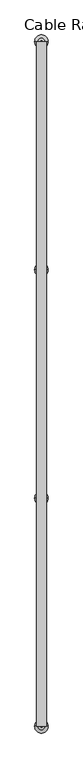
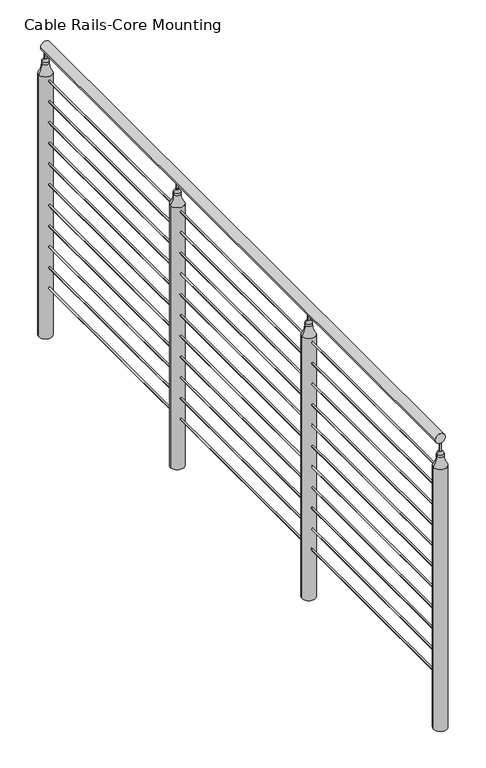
"""IFC4 building model written with IfcOpenShell, lengths in millimetres: railing geometry, Cable Rails-Core Mounting."""

from ifc_helpers import new_model, si_unit, point, frame, frame_2d, origin, place, context, project, spatial, circle_curve, ellipse_curve, trimmed, segment, composite_curve, outline, extrude, source, transform, mapped, element, save
from ifc_brep_helpers import plane_surface, cylinder_surface, revolved_surface, advanced_brep


def cable_rails_core_mounting_adef0a97(model_context):
    return source(origin(), model_context, "Body", "SolidModel", [
        extrude(outline(composite_curve([segment(trimmed(circle_curve(frame_2d((4140.2, -11646.7970616)), 19.05), [point((4140.2, -11665.8470616))], [point((4140.2, -11627.7470616))], False, "CARTESIAN"), True, "CONTINUOUS"), segment(trimmed(circle_curve(frame_2d((4140.2, -11646.7970616)), 19.05), [point((4140.2, -11627.7470616))], [point((4140.2, -11665.8470616))], False, "CARTESIAN"), True, "CONTINUOUS")], self_intersect=False)), frame((0.0, -3922.2150713, 0.0), z_axis=(0.0, 1.0, 0.0), x_axis=(0.0, 0.0, 1.0)), (0.0, 0.0, 1.0), 2578.1),
        extrude(outline(composite_curve([segment(trimmed(circle_curve(frame_2d((4016.375, -11646.7970616)), 3.175), [point((4016.375, -11649.9720616))], [point((4016.375, -11643.6220616))], False, "CARTESIAN"), True, "CONTINUOUS"), segment(trimmed(circle_curve(frame_2d((4016.375, -11646.7970616)), 3.175), [point((4016.375, -11643.6220616))], [point((4016.375, -11649.9720616))], False, "CARTESIAN"), True, "CONTINUOUS")], self_intersect=False)), frame((0.0, -3922.2150713, 0.0), z_axis=(0.0, 1.0, 0.0), x_axis=(0.0, 0.0, 1.0)), (0.0, 0.0, 1.0), 2578.1),
        extrude(outline(composite_curve([segment(trimmed(circle_curve(frame_2d((3933.825, -11646.7970616)), 3.175), [point((3933.825, -11649.9720616))], [point((3933.825, -11643.6220616))], False, "CARTESIAN"), True, "CONTINUOUS"), segment(trimmed(circle_curve(frame_2d((3933.825, -11646.7970616)), 3.175), [point((3933.825, -11643.6220616))], [point((3933.825, -11649.9720616))], False, "CARTESIAN"), True, "CONTINUOUS")], self_intersect=False)), frame((0.0, -3922.2150713, 0.0), z_axis=(0.0, 1.0, 0.0), x_axis=(0.0, 0.0, 1.0)), (0.0, 0.0, 1.0), 2578.1),
        extrude(outline(composite_curve([segment(trimmed(circle_curve(frame_2d((3851.275, -11646.7970616)), 3.175), [point((3851.275, -11649.9720616))], [point((3851.275, -11643.6220616))], False, "CARTESIAN"), True, "CONTINUOUS"), segment(trimmed(circle_curve(frame_2d((3851.275, -11646.7970616)), 3.175), [point((3851.275, -11643.6220616))], [point((3851.275, -11649.9720616))], False, "CARTESIAN"), True, "CONTINUOUS")], self_intersect=False)), frame((0.0, -3922.2150713, 0.0), z_axis=(0.0, 1.0, 0.0), x_axis=(0.0, 0.0, 1.0)), (0.0, 0.0, 1.0), 2578.1),
        extrude(outline(composite_curve([segment(trimmed(circle_curve(frame_2d((3768.725, -11646.7970616)), 3.175), [point((3768.725, -11649.9720616))], [point((3768.725, -11643.6220616))], False, "CARTESIAN"), True, "CONTINUOUS"), segment(trimmed(circle_curve(frame_2d((3768.725, -11646.7970616)), 3.175), [point((3768.725, -11643.6220616))], [point((3768.725, -11649.9720616))], False, "CARTESIAN"), True, "CONTINUOUS")], self_intersect=False)), frame((0.0, -3922.2150713, 0.0), z_axis=(0.0, 1.0, 0.0), x_axis=(0.0, 0.0, 1.0)), (0.0, 0.0, 1.0), 2578.1),
        extrude(outline(composite_curve([segment(trimmed(circle_curve(frame_2d((3686.175, -11646.7970616)), 3.175), [point((3686.175, -11649.9720616))], [point((3686.175, -11643.6220616))], False, "CARTESIAN"), True, "CONTINUOUS"), segment(trimmed(circle_curve(frame_2d((3686.175, -11646.7970616)), 3.175), [point((3686.175, -11643.6220616))], [point((3686.175, -11649.9720616))], False, "CARTESIAN"), True, "CONTINUOUS")], self_intersect=False)), frame((0.0, -3922.2150713, 0.0), z_axis=(0.0, 1.0, 0.0), x_axis=(0.0, 0.0, 1.0)), (0.0, 0.0, 1.0), 2578.1),
        extrude(outline(composite_curve([segment(trimmed(circle_curve(frame_2d((3603.625, -11646.7970616)), 3.175), [point((3603.625, -11649.9720616))], [point((3603.625, -11643.6220616))], False, "CARTESIAN"), True, "CONTINUOUS"), segment(trimmed(circle_curve(frame_2d((3603.625, -11646.7970616)), 3.175), [point((3603.625, -11643.6220616))], [point((3603.625, -11649.9720616))], False, "CARTESIAN"), True, "CONTINUOUS")], self_intersect=False)), frame((0.0, -3922.2150713, 0.0), z_axis=(0.0, 1.0, 0.0), x_axis=(0.0, 0.0, 1.0)), (0.0, 0.0, 1.0), 2578.1),
        extrude(outline(composite_curve([segment(trimmed(circle_curve(frame_2d((3521.075, -11646.7970616)), 3.175), [point((3521.075, -11649.9720616))], [point((3521.075, -11643.6220616))], False, "CARTESIAN"), True, "CONTINUOUS"), segment(trimmed(circle_curve(frame_2d((3521.075, -11646.7970616)), 3.175), [point((3521.075, -11643.6220616))], [point((3521.075, -11649.9720616))], False, "CARTESIAN"), True, "CONTINUOUS")], self_intersect=False)), frame((0.0, -3922.2150713, 0.0), z_axis=(0.0, 1.0, 0.0), x_axis=(0.0, 0.0, 1.0)), (0.0, 0.0, 1.0), 2578.1),
        extrude(outline(composite_curve([segment(trimmed(circle_curve(frame_2d((3438.525, -11646.7970616)), 3.175), [point((3438.525, -11649.9720616))], [point((3438.525, -11643.6220616))], False, "CARTESIAN"), True, "CONTINUOUS"), segment(trimmed(circle_curve(frame_2d((3438.525, -11646.7970616)), 3.175), [point((3438.525, -11643.6220616))], [point((3438.525, -11649.9720616))], False, "CARTESIAN"), True, "CONTINUOUS")], self_intersect=False)), frame((0.0, -3922.2150713, 0.0), z_axis=(0.0, 1.0, 0.0), x_axis=(0.0, 0.0, 1.0)), (0.0, 0.0, 1.0), 2578.1),
        extrude(outline(composite_curve([segment(trimmed(circle_curve(frame_2d((3355.975, -11646.7970616)), 3.175), [point((3355.975, -11649.9720616))], [point((3355.975, -11643.6220616))], False, "CARTESIAN"), True, "CONTINUOUS"), segment(trimmed(circle_curve(frame_2d((3355.975, -11646.7970616)), 3.175), [point((3355.975, -11643.6220616))], [point((3355.975, -11649.9720616))], False, "CARTESIAN"), True, "CONTINUOUS")], self_intersect=False)), frame((0.0, -3922.2150713, 0.0), z_axis=(0.0, 1.0, 0.0), x_axis=(0.0, 0.0, 1.0)), (0.0, 0.0, 1.0), 2578.1),
        extrude(outline(composite_curve([segment(trimmed(circle_curve(frame_2d((3273.425, -11646.7970616)), 3.175), [point((3273.425, -11649.9720616))], [point((3273.425, -11643.6220616))], False, "CARTESIAN"), True, "CONTINUOUS"), segment(trimmed(circle_curve(frame_2d((3273.425, -11646.7970616)), 3.175), [point((3273.425, -11643.6220616))], [point((3273.425, -11649.9720616))], False, "CARTESIAN"), True, "CONTINUOUS")], self_intersect=False)), frame((0.0, -3922.2150713, 0.0), z_axis=(0.0, 1.0, 0.0), x_axis=(0.0, 0.0, 1.0)), (0.0, 0.0, 1.0), 2578.1),
        extrude(outline(composite_curve([segment(trimmed(circle_curve(frame_2d((3190.875, -11646.7970616)), 3.175), [point((3190.875, -11649.9720616))], [point((3190.875, -11643.6220616))], False, "CARTESIAN"), True, "CONTINUOUS"), segment(trimmed(circle_curve(frame_2d((3190.875, -11646.7970616)), 3.175), [point((3190.875, -11643.6220616))], [point((3190.875, -11649.9720616))], False, "CARTESIAN"), True, "CONTINUOUS")], self_intersect=False)), frame((0.0, -3922.2150713, 0.0), z_axis=(0.0, 1.0, 0.0), x_axis=(0.0, 0.0, 1.0)), (0.0, 0.0, 1.0), 2578.1),
        advanced_brep(
        [(-11621.3976638, -2203.0848629, 4033.5847854), (-11672.1964594, -2203.0848629, 4033.5847854), (-11672.1964594, -2203.0848629, 2990.85), (-11621.3976638, -2203.0848629, 2990.85), (-11634.0590931, -2203.0848629, 4071.7986202), (-11659.5350302, -2203.0848629, 4071.7986202), (-11634.0590931, -2203.0848629, 4080.7816777), (-11659.5350302, -2203.0848629, 4080.7816777), (-11643.1975594, -2203.0848629, 4089.7402749), (-11650.3965638, -2203.0848629, 4089.7402749), (-11643.1975594, -2203.0848629, 4121.15), (-11650.3965638, -2203.0848629, 4121.15), (-11646.7970616, -2203.0848629, 4121.15), (-11646.7970616, -2203.0848629, 2990.85)],
        [
            (0, 1, circle_curve(frame((-11646.7970616, -2203.0848629, 4033.5847854), z_axis=(0.0, 0.0, -1.0), x_axis=(-1.0, 0.0, 0.0)), 25.3993978)),
            (1, 2),
            (2, 3, circle_curve(frame((-11646.7970616, -2203.0848629, 2990.85), z_axis=(0.0, 0.0, 1.0), x_axis=(-1.0, 0.0, 0.0)), 25.3993978)),
            (3, 0),
            (1, 0, circle_curve(frame((-11646.7970616, -2203.0848629, 4033.5847854), z_axis=(0.0, 0.0, -1.0), x_axis=(-1.0, 0.0, 0.0)), 25.3993978)),
            (3, 2, circle_curve(frame((-11646.7970616, -2203.0848629, 2990.85), z_axis=(0.0, 0.0, 1.0), x_axis=(-1.0, 0.0, 0.0)), 25.3993978)),
            (4, 5, circle_curve(frame((-11646.7970616, -2203.0848629, 4071.7986202), z_axis=(0.0, 0.0, -1.0), x_axis=(-1.0, 0.0, 0.0)), 12.7379685)),
            (5, 1, circle_curve(frame((-11723.5328985, -2203.0848629, 4071.7986202), z_axis=(0.0, 1.0, 0.0), x_axis=(-1.0, 0.0, 0.0)), 63.9978683)),
            (0, 4, circle_curve(frame((-11570.0612248, -2203.0848629, 4071.7986202), z_axis=(0.0, 1.0, 0.0), x_axis=(1.0, 0.0, 0.0)), 63.9978683)),
            (5, 4, circle_curve(frame((-11646.7970616, -2203.0848629, 4071.7986202), z_axis=(0.0, 0.0, -1.0), x_axis=(-1.0, 0.0, 0.0)), 12.7379685)),
            (6, 7, circle_curve(frame((-11646.7970616, -2203.0848629, 4080.7816777), z_axis=(0.0, 0.0, -1.0), x_axis=(-1.0, 0.0, 0.0)), 12.7379685)),
            (7, 5),
            (4, 6),
            (7, 6, circle_curve(frame((-11646.7970616, -2203.0848629, 4080.7816777), z_axis=(0.0, 0.0, -1.0), x_axis=(-1.0, 0.0, 0.0)), 12.7379685)),
            (8, 9, circle_curve(frame((-11646.7970616, -2203.0848629, 4089.7402749), z_axis=(0.0, 0.0, -1.0), x_axis=(-1.0, 0.0, 0.0)), 3.5995022)),
            (9, 7, circle_curve(frame((-11646.7569358, -2203.0848629, 4076.8872989), z_axis=(0.0, -1.0, 0.0), x_axis=(-1.0, 0.0, 0.0)), 13.3583638)),
            (6, 8, circle_curve(frame((-11646.8371875, -2203.0848629, 4076.8872989), z_axis=(0.0, -1.0, 0.0), x_axis=(1.0, 0.0, 0.0)), 13.3583638)),
            (9, 8, circle_curve(frame((-11646.7970616, -2203.0848629, 4089.7402749), z_axis=(0.0, 0.0, -1.0), x_axis=(-1.0, 0.0, 0.0)), 3.5995022)),
            (10, 11, circle_curve(frame((-11646.7970616, -2203.0848629, 4121.15), z_axis=(0.0, 0.0, -1.0), x_axis=(-1.0, 0.0, 0.0)), 3.5995022)),
            (11, 9),
            (8, 10),
            (11, 10, circle_curve(frame((-11646.7970616, -2203.0848629, 4121.15), z_axis=(0.0, 0.0, -1.0), x_axis=(-1.0, 0.0, 0.0)), 3.5995022)),
            (12, 11),
            (10, 12),
            (2, 13),
            (13, 3),
        ],
        [
            cylinder_surface(frame((-11646.7970616, -2203.0848629, 4197.35), z_axis=(0.0, 0.0, 1.0), x_axis=(-1.0, 0.0, 0.0)), 25.3993978),
            revolved_surface(trimmed(ellipse_curve(frame((-11723.5328985, -2203.0848629, 4071.7986202), z_axis=(0.0, -1.0, 0.0), x_axis=(-1.0, 0.0, 0.0)), 63.9978683, 63.9978683), [point((-11672.1964594, -2203.0848629, 4033.5847854))], [point((-11659.5350302, -2203.0848629, 4071.7986202))], True, "CARTESIAN"), (-11646.7970616, -2203.0848629, 4197.35), (0.0, 0.0, 1.0)),
            cylinder_surface(frame((-11646.7970616, -2203.0848629, 4197.35), z_axis=(0.0, 0.0, 1.0), x_axis=(-1.0, 0.0, 0.0)), 12.7379685),
            revolved_surface(trimmed(ellipse_curve(frame((-11646.7569358, -2203.0848629, 4076.8872989), z_axis=(0.0, 1.0, 0.0), x_axis=(-1.0, 0.0, 0.0)), 13.3583638, 13.3583638), [point((-11659.5350302, -2203.0848629, 4080.7816777))], [point((-11650.3965638, -2203.0848629, 4089.7402749))], True, "CARTESIAN"), (-11646.7970616, -2203.0848629, 4197.35), (0.0, 0.0, 1.0)),
            cylinder_surface(frame((-11646.7970616, -2203.0848629, 4197.35), z_axis=(0.0, 0.0, 1.0), x_axis=(-1.0, 0.0, 0.0)), 3.5995022),
            plane_surface(frame((-11646.7970616, -2203.0848629, 4121.15), z_axis=(0.0, 0.0, 1.0), x_axis=(-1.0, 0.0, 0.0))),
            plane_surface(frame((-11646.7970616, -2203.0848629, 2990.85), z_axis=(0.0, 0.0, -1.0), x_axis=(-1.0, 0.0, 0.0))),
        ],
        [
            (0, [[1, 2, 3, 4]]),
            (0, [[5, -4, 6, -2]]),
            (1, [[7, 8, -1, 9]]),
            (1, [[10, -9, -5, -8]]),
            (2, [[11, 12, -7, 13]]),
            (2, [[14, -13, -10, -12]]),
            (3, [[15, 16, -11, 17]]),
            (3, [[18, -17, -14, -16]]),
            (4, [[19, 20, -15, 21]]),
            (4, [[22, -21, -18, -20]]),
            (5, [[23, -19, 24]]),
            (5, [[-24, -22, -23]]),
            (6, [[-3, 25, 26]]),
            (6, [[-6, -26, -25]]),
        ],
    ),
        advanced_brep(
        [(-11621.3976638, -3062.4515296, 4033.5847854), (-11672.1964594, -3062.4515296, 4033.5847854), (-11672.1964594, -3062.4515296, 2990.85), (-11621.3976638, -3062.4515296, 2990.85), (-11634.0590931, -3062.4515296, 4071.7986202), (-11659.5350302, -3062.4515296, 4071.7986202), (-11634.0590931, -3062.4515296, 4080.7816777), (-11659.5350302, -3062.4515296, 4080.7816777), (-11643.1975594, -3062.4515296, 4089.7402749), (-11650.3965638, -3062.4515296, 4089.7402749), (-11643.1975594, -3062.4515296, 4121.15), (-11650.3965638, -3062.4515296, 4121.15), (-11646.7970616, -3062.4515296, 4121.15), (-11646.7970616, -3062.4515296, 2990.85)],
        [
            (0, 1, circle_curve(frame((-11646.7970616, -3062.4515296, 4033.5847854), z_axis=(0.0, 0.0, -1.0), x_axis=(-1.0, 0.0, 0.0)), 25.3993978)),
            (1, 2),
            (2, 3, circle_curve(frame((-11646.7970616, -3062.4515296, 2990.85), z_axis=(0.0, 0.0, 1.0), x_axis=(-1.0, 0.0, 0.0)), 25.3993978)),
            (3, 0),
            (1, 0, circle_curve(frame((-11646.7970616, -3062.4515296, 4033.5847854), z_axis=(0.0, 0.0, -1.0), x_axis=(-1.0, 0.0, 0.0)), 25.3993978)),
            (3, 2, circle_curve(frame((-11646.7970616, -3062.4515296, 2990.85), z_axis=(0.0, 0.0, 1.0), x_axis=(-1.0, 0.0, 0.0)), 25.3993978)),
            (4, 5, circle_curve(frame((-11646.7970616, -3062.4515296, 4071.7986202), z_axis=(0.0, 0.0, -1.0), x_axis=(-1.0, 0.0, 0.0)), 12.7379685)),
            (5, 1, circle_curve(frame((-11723.5328985, -3062.4515296, 4071.7986202), z_axis=(0.0, 1.0, 0.0), x_axis=(-1.0, 0.0, 0.0)), 63.9978683)),
            (0, 4, circle_curve(frame((-11570.0612248, -3062.4515296, 4071.7986202), z_axis=(0.0, 1.0, 0.0), x_axis=(1.0, 0.0, 0.0)), 63.9978683)),
            (5, 4, circle_curve(frame((-11646.7970616, -3062.4515296, 4071.7986202), z_axis=(0.0, 0.0, -1.0), x_axis=(-1.0, 0.0, 0.0)), 12.7379685)),
            (6, 7, circle_curve(frame((-11646.7970616, -3062.4515296, 4080.7816777), z_axis=(0.0, 0.0, -1.0), x_axis=(-1.0, 0.0, 0.0)), 12.7379685)),
            (7, 5),
            (4, 6),
            (7, 6, circle_curve(frame((-11646.7970616, -3062.4515296, 4080.7816777), z_axis=(0.0, 0.0, -1.0), x_axis=(-1.0, 0.0, 0.0)), 12.7379685)),
            (8, 9, circle_curve(frame((-11646.7970616, -3062.4515296, 4089.7402749), z_axis=(0.0, 0.0, -1.0), x_axis=(-1.0, 0.0, 0.0)), 3.5995022)),
            (9, 7, circle_curve(frame((-11646.7569358, -3062.4515296, 4076.8872989), z_axis=(0.0, -1.0, 0.0), x_axis=(-1.0, 0.0, 0.0)), 13.3583638)),
            (6, 8, circle_curve(frame((-11646.8371875, -3062.4515296, 4076.8872989), z_axis=(0.0, -1.0, 0.0), x_axis=(1.0, 0.0, 0.0)), 13.3583638)),
            (9, 8, circle_curve(frame((-11646.7970616, -3062.4515296, 4089.7402749), z_axis=(0.0, 0.0, -1.0), x_axis=(-1.0, 0.0, 0.0)), 3.5995022)),
            (10, 11, circle_curve(frame((-11646.7970616, -3062.4515296, 4121.15), z_axis=(0.0, 0.0, -1.0), x_axis=(-1.0, 0.0, 0.0)), 3.5995022)),
            (11, 9),
            (8, 10),
            (11, 10, circle_curve(frame((-11646.7970616, -3062.4515296, 4121.15), z_axis=(0.0, 0.0, -1.0), x_axis=(-1.0, 0.0, 0.0)), 3.5995022)),
            (12, 11),
            (10, 12),
            (2, 13),
            (13, 3),
        ],
        [
            cylinder_surface(frame((-11646.7970616, -3062.4515296, 4197.35), z_axis=(0.0, 0.0, 1.0), x_axis=(-1.0, 0.0, 0.0)), 25.3993978),
            revolved_surface(trimmed(ellipse_curve(frame((-11723.5328985, -3062.4515296, 4071.7986202), z_axis=(0.0, -1.0, 0.0), x_axis=(-1.0, 0.0, 0.0)), 63.9978683, 63.9978683), [point((-11672.1964594, -3062.4515296, 4033.5847854))], [point((-11659.5350302, -3062.4515296, 4071.7986202))], True, "CARTESIAN"), (-11646.7970616, -3062.4515296, 4197.35), (0.0, 0.0, 1.0)),
            cylinder_surface(frame((-11646.7970616, -3062.4515296, 4197.35), z_axis=(0.0, 0.0, 1.0), x_axis=(-1.0, 0.0, 0.0)), 12.7379685),
            revolved_surface(trimmed(ellipse_curve(frame((-11646.7569358, -3062.4515296, 4076.8872989), z_axis=(0.0, 1.0, 0.0), x_axis=(-1.0, 0.0, 0.0)), 13.3583638, 13.3583638), [point((-11659.5350302, -3062.4515296, 4080.7816777))], [point((-11650.3965638, -3062.4515296, 4089.7402749))], True, "CARTESIAN"), (-11646.7970616, -3062.4515296, 4197.35), (0.0, 0.0, 1.0)),
            cylinder_surface(frame((-11646.7970616, -3062.4515296, 4197.35), z_axis=(0.0, 0.0, 1.0), x_axis=(-1.0, 0.0, 0.0)), 3.5995022),
            plane_surface(frame((-11646.7970616, -3062.4515296, 4121.15), z_axis=(0.0, 0.0, 1.0), x_axis=(-1.0, 0.0, 0.0))),
            plane_surface(frame((-11646.7970616, -3062.4515296, 2990.85), z_axis=(0.0, 0.0, -1.0), x_axis=(-1.0, 0.0, 0.0))),
        ],
        [
            (0, [[1, 2, 3, 4]]),
            (0, [[5, -4, 6, -2]]),
            (1, [[7, 8, -1, 9]]),
            (1, [[10, -9, -5, -8]]),
            (2, [[11, 12, -7, 13]]),
            (2, [[14, -13, -10, -12]]),
            (3, [[15, 16, -11, 17]]),
            (3, [[18, -17, -14, -16]]),
            (4, [[19, 20, -15, 21]]),
            (4, [[22, -21, -18, -20]]),
            (5, [[23, -19, 24]]),
            (5, [[-24, -22, -23]]),
            (6, [[-3, 25, 26]]),
            (6, [[-6, -26, -25]]),
        ],
    ),
        advanced_brep(
        [(-11621.3976638, -1343.7181963, 4033.5847854), (-11672.1964594, -1343.7181963, 4033.5847854), (-11672.1964594, -1343.7181963, 2990.85), (-11621.3976638, -1343.7181963, 2990.85), (-11634.0590931, -1343.7181963, 4071.7986202), (-11659.5350302, -1343.7181963, 4071.7986202), (-11634.0590931, -1343.7181963, 4080.7816777), (-11659.5350302, -1343.7181963, 4080.7816777), (-11643.1975594, -1343.7181963, 4089.7402749), (-11650.3965638, -1343.7181963, 4089.7402749), (-11643.1975594, -1343.7181963, 4121.15), (-11650.3965638, -1343.7181963, 4121.15), (-11646.7970616, -1343.7181963, 4121.15), (-11646.7970616, -1343.7181963, 2990.85)],
        [
            (0, 1, circle_curve(frame((-11646.7970616, -1343.7181963, 4033.5847854), z_axis=(0.0, 0.0, -1.0), x_axis=(-1.0, 0.0, 0.0)), 25.3993978)),
            (1, 2),
            (2, 3, circle_curve(frame((-11646.7970616, -1343.7181963, 2990.85), z_axis=(0.0, 0.0, 1.0), x_axis=(-1.0, 0.0, 0.0)), 25.3993978)),
            (3, 0),
            (1, 0, circle_curve(frame((-11646.7970616, -1343.7181963, 4033.5847854), z_axis=(0.0, 0.0, -1.0), x_axis=(-1.0, 0.0, 0.0)), 25.3993978)),
            (3, 2, circle_curve(frame((-11646.7970616, -1343.7181963, 2990.85), z_axis=(0.0, 0.0, 1.0), x_axis=(-1.0, 0.0, 0.0)), 25.3993978)),
            (4, 5, circle_curve(frame((-11646.7970616, -1343.7181963, 4071.7986202), z_axis=(0.0, 0.0, -1.0), x_axis=(-1.0, 0.0, 0.0)), 12.7379685)),
            (5, 1, circle_curve(frame((-11723.5328985, -1343.7181963, 4071.7986202), z_axis=(0.0, 1.0, 0.0), x_axis=(-1.0, 0.0, 0.0)), 63.9978683)),
            (0, 4, circle_curve(frame((-11570.0612248, -1343.7181963, 4071.7986202), z_axis=(0.0, 1.0, 0.0), x_axis=(1.0, 0.0, 0.0)), 63.9978683)),
            (5, 4, circle_curve(frame((-11646.7970616, -1343.7181963, 4071.7986202), z_axis=(0.0, 0.0, -1.0), x_axis=(-1.0, 0.0, 0.0)), 12.7379685)),
            (6, 7, circle_curve(frame((-11646.7970616, -1343.7181963, 4080.7816777), z_axis=(0.0, 0.0, -1.0), x_axis=(-1.0, 0.0, 0.0)), 12.7379685)),
            (7, 5),
            (4, 6),
            (7, 6, circle_curve(frame((-11646.7970616, -1343.7181963, 4080.7816777), z_axis=(0.0, 0.0, -1.0), x_axis=(-1.0, 0.0, 0.0)), 12.7379685)),
            (8, 9, circle_curve(frame((-11646.7970616, -1343.7181963, 4089.7402749), z_axis=(0.0, 0.0, -1.0), x_axis=(-1.0, 0.0, 0.0)), 3.5995022)),
            (9, 7, circle_curve(frame((-11646.7569358, -1343.7181963, 4076.8872989), z_axis=(0.0, -1.0, 0.0), x_axis=(-1.0, 0.0, 0.0)), 13.3583638)),
            (6, 8, circle_curve(frame((-11646.8371875, -1343.7181963, 4076.8872989), z_axis=(0.0, -1.0, 0.0), x_axis=(1.0, 0.0, 0.0)), 13.3583638)),
            (9, 8, circle_curve(frame((-11646.7970616, -1343.7181963, 4089.7402749), z_axis=(0.0, 0.0, -1.0), x_axis=(-1.0, 0.0, 0.0)), 3.5995022)),
            (10, 11, circle_curve(frame((-11646.7970616, -1343.7181963, 4121.15), z_axis=(0.0, 0.0, -1.0), x_axis=(-1.0, 0.0, 0.0)), 3.5995022)),
            (11, 9),
            (8, 10),
            (11, 10, circle_curve(frame((-11646.7970616, -1343.7181963, 4121.15), z_axis=(0.0, 0.0, -1.0), x_axis=(-1.0, 0.0, 0.0)), 3.5995022)),
            (12, 11),
            (10, 12),
            (2, 13),
            (13, 3),
        ],
        [
            cylinder_surface(frame((-11646.7970616, -1343.7181963, 4197.35), z_axis=(0.0, 0.0, 1.0), x_axis=(-1.0, 0.0, 0.0)), 25.3993978),
            revolved_surface(trimmed(ellipse_curve(frame((-11723.5328985, -1343.7181963, 4071.7986202), z_axis=(0.0, -1.0, 0.0), x_axis=(-1.0, 0.0, 0.0)), 63.9978683, 63.9978683), [point((-11672.1964594, -1343.7181963, 4033.5847854))], [point((-11659.5350302, -1343.7181963, 4071.7986202))], True, "CARTESIAN"), (-11646.7970616, -1343.7181963, 4197.35), (0.0, 0.0, 1.0)),
            cylinder_surface(frame((-11646.7970616, -1343.7181963, 4197.35), z_axis=(0.0, 0.0, 1.0), x_axis=(-1.0, 0.0, 0.0)), 12.7379685),
            revolved_surface(trimmed(ellipse_curve(frame((-11646.7569358, -1343.7181963, 4076.8872989), z_axis=(0.0, 1.0, 0.0), x_axis=(-1.0, 0.0, 0.0)), 13.3583638, 13.3583638), [point((-11659.5350302, -1343.7181963, 4080.7816777))], [point((-11650.3965638, -1343.7181963, 4089.7402749))], True, "CARTESIAN"), (-11646.7970616, -1343.7181963, 4197.35), (0.0, 0.0, 1.0)),
            cylinder_surface(frame((-11646.7970616, -1343.7181963, 4197.35), z_axis=(0.0, 0.0, 1.0), x_axis=(-1.0, 0.0, 0.0)), 3.5995022),
            plane_surface(frame((-11646.7970616, -1343.7181963, 4121.15), z_axis=(0.0, 0.0, 1.0), x_axis=(-1.0, 0.0, 0.0))),
            plane_surface(frame((-11646.7970616, -1343.7181963, 2990.85), z_axis=(0.0, 0.0, -1.0), x_axis=(-1.0, 0.0, 0.0))),
        ],
        [
            (0, [[1, 2, 3, 4]]),
            (0, [[5, -4, 6, -2]]),
            (1, [[7, 8, -1, 9]]),
            (1, [[10, -9, -5, -8]]),
            (2, [[11, 12, -7, 13]]),
            (2, [[14, -13, -10, -12]]),
            (3, [[15, 16, -11, 17]]),
            (3, [[18, -17, -14, -16]]),
            (4, [[19, 20, -15, 21]]),
            (4, [[22, -21, -18, -20]]),
            (5, [[23, -19, 24]]),
            (5, [[-24, -22, -23]]),
            (6, [[-3, 25, 26]]),
            (6, [[-6, -26, -25]]),
        ],
    ),
        advanced_brep(
        [(-11621.3976638, -3921.8181963, 4033.5847854), (-11672.1964594, -3921.8181963, 4033.5847854), (-11672.1964594, -3921.8181963, 2990.85), (-11621.3976638, -3921.8181963, 2990.85), (-11634.0590931, -3921.8181963, 4071.7986202), (-11659.5350302, -3921.8181963, 4071.7986202), (-11634.0590931, -3921.8181963, 4080.7816777), (-11659.5350302, -3921.8181963, 4080.7816777), (-11643.1975594, -3921.8181963, 4089.7402749), (-11650.3965638, -3921.8181963, 4089.7402749), (-11643.1975594, -3921.8181963, 4121.15), (-11650.3965638, -3921.8181963, 4121.15), (-11646.7970616, -3921.8181963, 4121.15), (-11646.7970616, -3921.8181963, 2990.85)],
        [
            (0, 1, circle_curve(frame((-11646.7970616, -3921.8181963, 4033.5847854), z_axis=(0.0, 0.0, -1.0), x_axis=(-1.0, 0.0, 0.0)), 25.3993978)),
            (1, 2),
            (2, 3, circle_curve(frame((-11646.7970616, -3921.8181963, 2990.85), z_axis=(0.0, 0.0, 1.0), x_axis=(-1.0, 0.0, 0.0)), 25.3993978)),
            (3, 0),
            (1, 0, circle_curve(frame((-11646.7970616, -3921.8181963, 4033.5847854), z_axis=(0.0, 0.0, -1.0), x_axis=(-1.0, 0.0, 0.0)), 25.3993978)),
            (3, 2, circle_curve(frame((-11646.7970616, -3921.8181963, 2990.85), z_axis=(0.0, 0.0, 1.0), x_axis=(-1.0, 0.0, 0.0)), 25.3993978)),
            (4, 5, circle_curve(frame((-11646.7970616, -3921.8181963, 4071.7986202), z_axis=(0.0, 0.0, -1.0), x_axis=(-1.0, 0.0, 0.0)), 12.7379685)),
            (5, 1, circle_curve(frame((-11723.5328985, -3921.8181963, 4071.7986202), z_axis=(0.0, 1.0, 0.0), x_axis=(-1.0, 0.0, 0.0)), 63.9978683)),
            (0, 4, circle_curve(frame((-11570.0612248, -3921.8181963, 4071.7986202), z_axis=(0.0, 1.0, 0.0), x_axis=(1.0, 0.0, 0.0)), 63.9978683)),
            (5, 4, circle_curve(frame((-11646.7970616, -3921.8181963, 4071.7986202), z_axis=(0.0, 0.0, -1.0), x_axis=(-1.0, 0.0, 0.0)), 12.7379685)),
            (6, 7, circle_curve(frame((-11646.7970616, -3921.8181963, 4080.7816777), z_axis=(0.0, 0.0, -1.0), x_axis=(-1.0, 0.0, 0.0)), 12.7379685)),
            (7, 5),
            (4, 6),
            (7, 6, circle_curve(frame((-11646.7970616, -3921.8181963, 4080.7816777), z_axis=(0.0, 0.0, -1.0), x_axis=(-1.0, 0.0, 0.0)), 12.7379685)),
            (8, 9, circle_curve(frame((-11646.7970616, -3921.8181963, 4089.7402749), z_axis=(0.0, 0.0, -1.0), x_axis=(-1.0, 0.0, 0.0)), 3.5995022)),
            (9, 7, circle_curve(frame((-11646.7569358, -3921.8181963, 4076.8872989), z_axis=(0.0, -1.0, 0.0), x_axis=(-1.0, 0.0, 0.0)), 13.3583638)),
            (6, 8, circle_curve(frame((-11646.8371875, -3921.8181963, 4076.8872989), z_axis=(0.0, -1.0, 0.0), x_axis=(1.0, 0.0, 0.0)), 13.3583638)),
            (9, 8, circle_curve(frame((-11646.7970616, -3921.8181963, 4089.7402749), z_axis=(0.0, 0.0, -1.0), x_axis=(-1.0, 0.0, 0.0)), 3.5995022)),
            (10, 11, circle_curve(frame((-11646.7970616, -3921.8181963, 4121.15), z_axis=(0.0, 0.0, -1.0), x_axis=(-1.0, 0.0, 0.0)), 3.5995022)),
            (11, 9),
            (8, 10),
            (11, 10, circle_curve(frame((-11646.7970616, -3921.8181963, 4121.15), z_axis=(0.0, 0.0, -1.0), x_axis=(-1.0, 0.0, 0.0)), 3.5995022)),
            (12, 11),
            (10, 12),
            (2, 13),
            (13, 3),
        ],
        [
            cylinder_surface(frame((-11646.7970616, -3921.8181963, 4197.35), z_axis=(0.0, 0.0, 1.0), x_axis=(-1.0, 0.0, 0.0)), 25.3993978),
            revolved_surface(trimmed(ellipse_curve(frame((-11723.5328985, -3921.8181963, 4071.7986202), z_axis=(0.0, -1.0, 0.0), x_axis=(-1.0, 0.0, 0.0)), 63.9978683, 63.9978683), [point((-11672.1964594, -3921.8181963, 4033.5847854))], [point((-11659.5350302, -3921.8181963, 4071.7986202))], True, "CARTESIAN"), (-11646.7970616, -3921.8181963, 4197.35), (0.0, 0.0, 1.0)),
            cylinder_surface(frame((-11646.7970616, -3921.8181963, 4197.35), z_axis=(0.0, 0.0, 1.0), x_axis=(-1.0, 0.0, 0.0)), 12.7379685),
            revolved_surface(trimmed(ellipse_curve(frame((-11646.7569358, -3921.8181963, 4076.8872989), z_axis=(0.0, 1.0, 0.0), x_axis=(-1.0, 0.0, 0.0)), 13.3583638, 13.3583638), [point((-11659.5350302, -3921.8181963, 4080.7816777))], [point((-11650.3965638, -3921.8181963, 4089.7402749))], True, "CARTESIAN"), (-11646.7970616, -3921.8181963, 4197.35), (0.0, 0.0, 1.0)),
            cylinder_surface(frame((-11646.7970616, -3921.8181963, 4197.35), z_axis=(0.0, 0.0, 1.0), x_axis=(-1.0, 0.0, 0.0)), 3.5995022),
            plane_surface(frame((-11646.7970616, -3921.8181963, 4121.15), z_axis=(0.0, 0.0, 1.0), x_axis=(-1.0, 0.0, 0.0))),
            plane_surface(frame((-11646.7970616, -3921.8181963, 2990.85), z_axis=(0.0, 0.0, -1.0), x_axis=(-1.0, 0.0, 0.0))),
        ],
        [
            (0, [[1, 2, 3, 4]]),
            (0, [[5, -4, 6, -2]]),
            (1, [[7, 8, -1, 9]]),
            (1, [[10, -9, -5, -8]]),
            (2, [[11, 12, -7, 13]]),
            (2, [[14, -13, -10, -12]]),
            (3, [[15, 16, -11, 17]]),
            (3, [[18, -17, -14, -16]]),
            (4, [[19, 20, -15, 21]]),
            (4, [[22, -21, -18, -20]]),
            (5, [[23, -19, 24]]),
            (5, [[-24, -22, -23]]),
            (6, [[-3, 25, 26]]),
            (6, [[-6, -26, -25]]),
        ],
    ),
    ])


if __name__ == "__main__":
    model = new_model("IFC4")
    model_context = context("Model", 3, world=origin())
    ifc_project = project(units=[si_unit("LENGTHUNIT", "METRE", prefix="MILLI")], contexts=[model_context])
    site = spatial("IfcSite", under=ifc_project)
    building = spatial("IfcBuilding", under=site)
    placement = place(None, origin())
    cable_rails_core_mounting_shape = cable_rails_core_mounting_adef0a97(model_context)
    element("IfcRailing", 1, ObjectType="Cable Rails-Core Mounting", at=placement, inside=building, context=model_context, shape_type="MappedRepresentation", body=[
        mapped(cable_rails_core_mounting_shape, transform((0.0, 0.0, 0.0), x_axis=(1.0, 0.0, 0.0), y_axis=(0.0, 1.0, 0.0), z_axis=(0.0, 0.0, 1.0))),
    ])
    save(model, "model.ifc")
